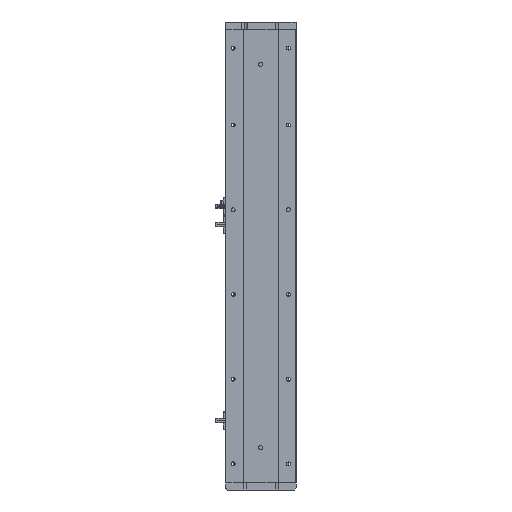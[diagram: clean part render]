
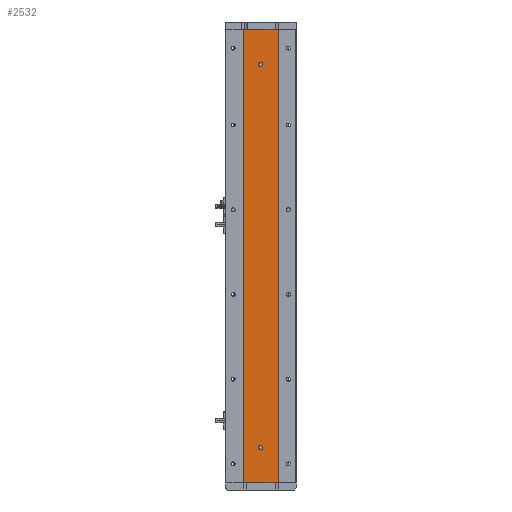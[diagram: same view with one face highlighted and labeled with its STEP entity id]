
A CAD part, left-side view. The second image highlights one B-rep face of the part: STEP entity #2532.
In plain terms, the highlighted planar face has unit normal (-1, 0, 0).
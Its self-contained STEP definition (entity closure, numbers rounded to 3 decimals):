
#216 = FACE_OUTER_BOUND ( 'NONE', #6869, .T. ) ;
#264 = LINE ( 'NONE', #32839, #21377 ) ;
#468 = CARTESIAN_POINT ( 'NONE',  ( -18.926, 0., 53. ) ) ;
#2201 = ORIENTED_EDGE ( 'NONE', *, *, #12363, .F. ) ;
#2385 = AXIS2_PLACEMENT_3D ( 'NONE', #25669, #9316, #28386 ) ;
#2532 = ADVANCED_FACE ( 'NONE', ( #28431, #29319, #216 ), #18411, .F. ) ;
#3155 = EDGE_CURVE ( 'NONE', #21038, #20671, #7992, .T. ) ;
#4187 = CIRCLE ( 'NONE', #2385, 3. ) ;
#6869 = EDGE_LOOP ( 'NONE', ( #21442, #29032, #25666, #28805 ) ) ;
#7369 = CIRCLE ( 'NONE', #20621, 3. ) ;
#7828 = VECTOR ( 'NONE', #26219, 1000. ) ;
#7992 = CIRCLE ( 'NONE', #18382, 3. ) ;
#8193 = AXIS2_PLACEMENT_3D ( 'NONE', #14170, #33202, #16984 ) ;
#8453 = VERTEX_POINT ( 'NONE', #21111 ) ;
#9316 = DIRECTION ( 'NONE',  ( -1., 0., 0. ) ) ;
#9652 = CARTESIAN_POINT ( 'NONE',  ( -18.926, 24.785, 643. ) ) ;
#9757 = CARTESIAN_POINT ( 'NONE',  ( -18.926, 24.785, 0. ) ) ;
#10346 = EDGE_LOOP ( 'NONE', ( #2201, #22176 ) ) ;
#11191 = DIRECTION ( 'NONE',  ( 0., 0., -1. ) ) ;
#11680 = EDGE_CURVE ( 'NONE', #32396, #32991, #29023, .T. ) ;
#11783 = CARTESIAN_POINT ( 'NONE',  ( -18.926, 0., 593. ) ) ;
#12363 = EDGE_CURVE ( 'NONE', #20671, #21038, #4187, .T. ) ;
#12429 = DIRECTION ( 'NONE',  ( 0., 0., -1. ) ) ;
#13039 = AXIS2_PLACEMENT_3D ( 'NONE', #23926, #23807, #21370 ) ;
#13796 = ORIENTED_EDGE ( 'NONE', *, *, #29935, .F. ) ;
#14170 = CARTESIAN_POINT ( 'NONE',  ( -18.926, 0., 593. ) ) ;
#14532 = DIRECTION ( 'NONE',  ( 0., 0., 1. ) ) ;
#14555 = EDGE_CURVE ( 'NONE', #32396, #14850, #29536, .T. ) ;
#14850 = VERTEX_POINT ( 'NONE', #22577 ) ;
#15460 = VECTOR ( 'NONE', #18593, 1000. ) ;
#15974 = VECTOR ( 'NONE', #12429, 1000. ) ;
#16260 = CARTESIAN_POINT ( 'NONE',  ( -18.926, 0., 590. ) ) ;
#16984 = DIRECTION ( 'NONE',  ( 0., 0., 1. ) ) ;
#17675 = CARTESIAN_POINT ( 'NONE',  ( -18.926, -24.785, 643. ) ) ;
#18382 = AXIS2_PLACEMENT_3D ( 'NONE', #28918, #29079, #29071 ) ;
#18411 = PLANE ( 'NONE',  #13039 ) ;
#18593 = DIRECTION ( 'NONE',  ( 0., -1., 0. ) ) ;
#18975 = CARTESIAN_POINT ( 'NONE',  ( -18.926, 0., 596. ) ) ;
#19469 = VERTEX_POINT ( 'NONE', #16260 ) ;
#20621 = AXIS2_PLACEMENT_3D ( 'NONE', #11783, #30808, #14532 ) ;
#20671 = VERTEX_POINT ( 'NONE', #468 ) ;
#21038 = VERTEX_POINT ( 'NONE', #29752 ) ;
#21111 = CARTESIAN_POINT ( 'NONE',  ( -18.926, -24.785, 0. ) ) ;
#21370 = DIRECTION ( 'NONE',  ( 0., 0., -1. ) ) ;
#21377 = VECTOR ( 'NONE', #11191, 1000. ) ;
#21442 = ORIENTED_EDGE ( 'NONE', *, *, #26699, .T. ) ;
#22176 = ORIENTED_EDGE ( 'NONE', *, *, #3155, .F. ) ;
#22416 = LINE ( 'NONE', #9757, #7828 ) ;
#22577 = CARTESIAN_POINT ( 'NONE',  ( -18.926, 24.785, 0. ) ) ;
#23764 = EDGE_CURVE ( 'NONE', #33812, #19469, #35366, .T. ) ;
#23807 = DIRECTION ( 'NONE',  ( 1., 0., 0. ) ) ;
#23926 = CARTESIAN_POINT ( 'NONE',  ( -18.926, 24.785, 643. ) ) ;
#25666 = ORIENTED_EDGE ( 'NONE', *, *, #11680, .F. ) ;
#25669 = CARTESIAN_POINT ( 'NONE',  ( -18.926, 0., 50. ) ) ;
#25965 = CARTESIAN_POINT ( 'NONE',  ( -18.926, 24.785, 643. ) ) ;
#26219 = DIRECTION ( 'NONE',  ( 0., -1., 0. ) ) ;
#26699 = EDGE_CURVE ( 'NONE', #14850, #8453, #22416, .T. ) ;
#28386 = DIRECTION ( 'NONE',  ( 0., 0., 1. ) ) ;
#28431 = FACE_BOUND ( 'NONE', #31572, .T. ) ;
#28805 = ORIENTED_EDGE ( 'NONE', *, *, #14555, .T. ) ;
#28918 = CARTESIAN_POINT ( 'NONE',  ( -18.926, 0., 50. ) ) ;
#29023 = LINE ( 'NONE', #34095, #15460 ) ;
#29032 = ORIENTED_EDGE ( 'NONE', *, *, #32687, .F. ) ;
#29071 = DIRECTION ( 'NONE',  ( 0., 0., 1. ) ) ;
#29079 = DIRECTION ( 'NONE',  ( -1., 0., 0. ) ) ;
#29319 = FACE_BOUND ( 'NONE', #10346, .T. ) ;
#29536 = LINE ( 'NONE', #9652, #15974 ) ;
#29600 = ORIENTED_EDGE ( 'NONE', *, *, #23764, .F. ) ;
#29752 = CARTESIAN_POINT ( 'NONE',  ( -18.926, 0., 47. ) ) ;
#29935 = EDGE_CURVE ( 'NONE', #19469, #33812, #7369, .T. ) ;
#30808 = DIRECTION ( 'NONE',  ( -1., 0., 0. ) ) ;
#31572 = EDGE_LOOP ( 'NONE', ( #29600, #13796 ) ) ;
#32396 = VERTEX_POINT ( 'NONE', #25965 ) ;
#32687 = EDGE_CURVE ( 'NONE', #32991, #8453, #264, .T. ) ;
#32839 = CARTESIAN_POINT ( 'NONE',  ( -18.926, -24.785, 643. ) ) ;
#32991 = VERTEX_POINT ( 'NONE', #17675 ) ;
#33202 = DIRECTION ( 'NONE',  ( -1., 0., 0. ) ) ;
#33812 = VERTEX_POINT ( 'NONE', #18975 ) ;
#34095 = CARTESIAN_POINT ( 'NONE',  ( -18.926, 24.785, 643. ) ) ;
#35366 = CIRCLE ( 'NONE', #8193, 3. ) ;
